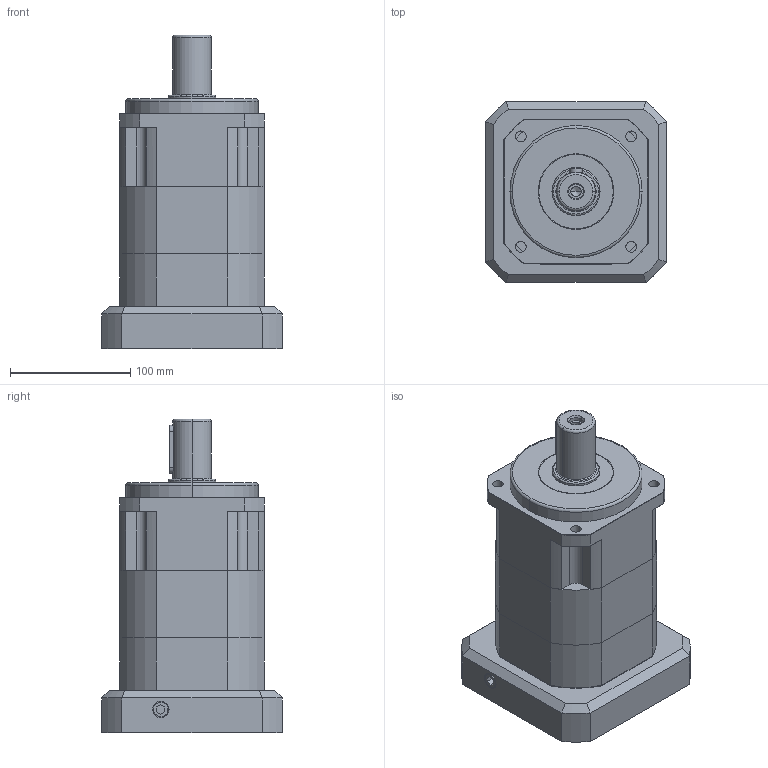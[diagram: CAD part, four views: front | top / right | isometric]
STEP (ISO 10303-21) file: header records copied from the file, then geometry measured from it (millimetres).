
FILE_DESCRIPTION (( 'STEP AP203' ), '1' );
FILE_NAME ('SB120A-2-130M10.STEP', '2011-07-11T08:48:58', ( '1' ), ( '' ), 'SwSTEP 2.0', 'SolidWorks 2011', '' );
FILE_SCHEMA (( 'CONFIG_CONTROL_DESIGN' ));
Length unit declared in the file: millimetre
Products named in the file (1): SB120A-2-130M10
Bounding box: 150 x 150 x 261 mm (x, y, z)
Volume: 2232312.1 mm3; surface area: 323046.4 mm2
Topology: 17 solids, 17 shells, 762 faces, 1865 edges, 1162 vertices
Faces by surface type: cylinder 296, plane 287, cone 109, torus 55, bspline 15
Entity records: 23652 total; most frequent: CARTESIAN_POINT 5307, DIRECTION 4023, ORIENTED_EDGE 3670, EDGE_CURVE 1835, AXIS2_PLACEMENT_3D 1560, VERTEX_POINT 1162, VECTOR 903, LINE 903
